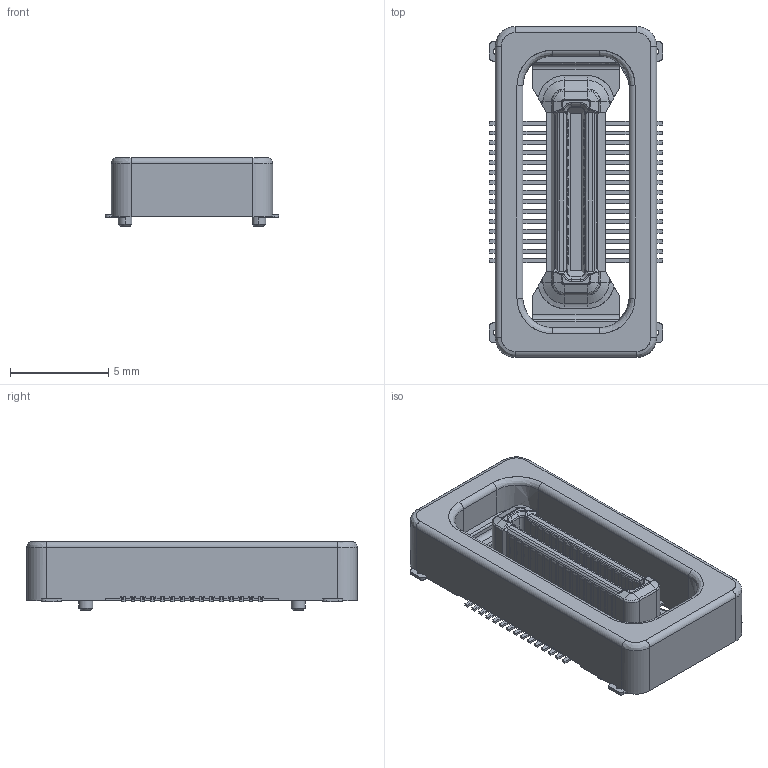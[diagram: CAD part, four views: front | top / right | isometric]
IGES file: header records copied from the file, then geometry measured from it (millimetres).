
Start section: SolidWorks IGES file using analytic representation for surfaces
Global section: file name: Q:\Kamikawa_Hisako\190710\MK_X4_5655_XXX_XXX_829+T\14_5655_XX0_00X_829+T\14_5655_XX0_001_829+T\14_5655_030_001_829+T.IGS; native system: SolidWorks 2017; preprocessor: SolidWorks 2017; author: HISAKO.KAMIKAWA.FJ; date: 190711.110436; units: millimetre
Bounding box: 8.8 x 16.8 x 3.5 mm (x, y, z)
Surface area: 613.2 mm2 (no closed solid volume)
Topology: 0 solids, 0 shells, 1367 faces, 8442 edges, 8442 vertices
Faces by surface type: bspline 973, revolution 394
